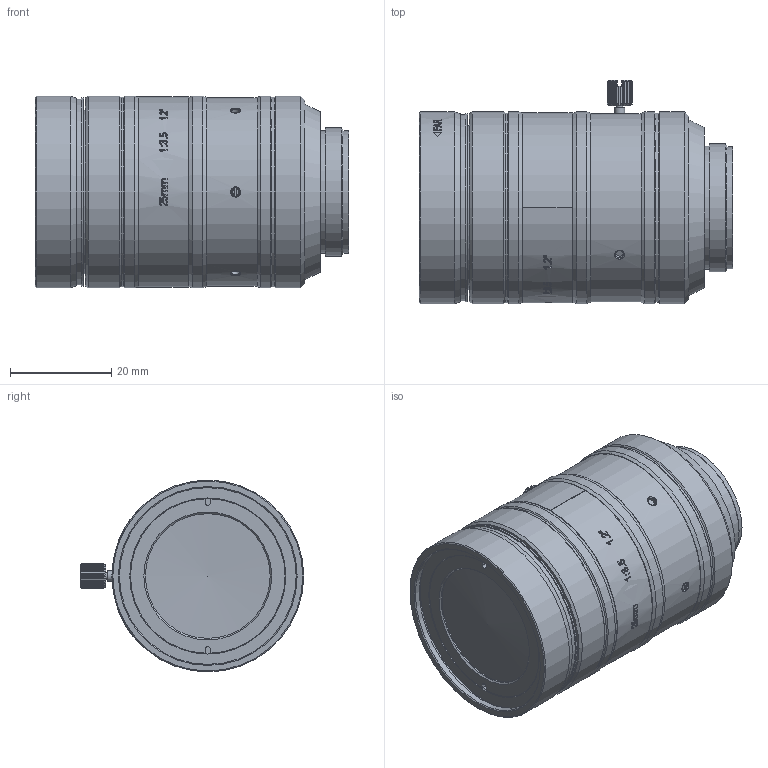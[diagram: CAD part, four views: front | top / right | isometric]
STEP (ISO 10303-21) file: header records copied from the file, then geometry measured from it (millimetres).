
FILE_DESCRIPTION(/* description */ (''),/* implementation_level */ '2;1');
FILE_NAME(/* name */ 'T-60036-D.stp',/* time_stamp */ '2026-07-16T14:52:23+08:00',/* author */ (''),/* organization */ (''),/* preprocessor_version */ 'ST-DEVELOPER v16.7',/* originating_system */ 'SIEMENS PLM Software NX 12.0',/* authorisation */ '');
FILE_SCHEMA (('AP203_CONFIGURATION_CONTROLLED_3D_DESIGN_OF_MECHANICAL_PARTS_AND_ASSEMBLIES_MIM_LF { 1 0 10303 403 2 1 2}'));
Length unit declared in the file: millimetre
Products named in the file (1): YC1057209A3292ty
Bounding box: 62.07 x 44.25 x 38 mm (x, y, z)
Volume: 62306.4 mm3; surface area: 13411.7 mm2
Topology: 2 solids, 3 shells, 852 faces, 2345 edges, 1560 vertices
Faces by surface type: plane 588, bspline 116, cylinder 97, cone 49, sphere 2
Full cylindrical faces by diameter (mm): 1.2 x1, 1.6 x3, 2 x1, 19.6 x1, 19.9 x1, 20.7 x1, 21.174 x1, 24.2 x1, 24.3 x1, 24.7 x1, 25.4 x1, 26.7 x1, 27 x1, 32.4 x1, 35 x1, 35.7 x1, 36.8 x1, 37.3 x2, 37.5 x1, 37.504 x1, 37.537 x1, 38 x6
Entity records: 35290 total; most frequent: CARTESIAN_POINT 14570, ORIENTED_EDGE 4508, DIRECTION 3519, EDGE_CURVE 2254, VERTEX_POINT 1534, AXIS2_PLACEMENT_3D 1365, EDGE_LOOP 978, ADVANCED_FACE 851
